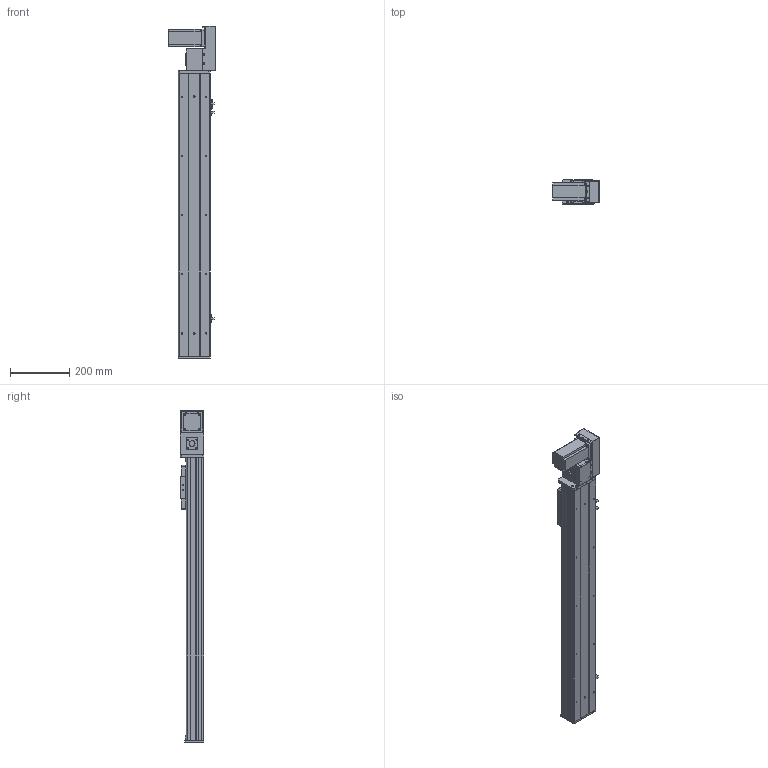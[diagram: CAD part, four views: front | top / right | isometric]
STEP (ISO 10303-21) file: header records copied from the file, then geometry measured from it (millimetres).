
FILE_DESCRIPTION (( 'STEP AP203' ), '1' );
FILE_NAME ('Y10CB-D90-S700-BR-P400W.STEP', '2020-02-16T01:41:44', ( '微软用户' ), ( '微软中国' ), 'SwSTEP 2.0', 'SolidWorks 2017', '' );
FILE_SCHEMA (( 'CONFIG_CONTROL_DESIGN' ));
Length unit declared in the file: millimetre
Products named in the file (18): Y100-135俋离換覜ん--; 0B-埴倛裔啣; Y10B--々湍喘謫眊--666; Y俋欶BR----; 0CB-雄赽釱---; Y10CB-D90-S700-BR-P400W; 10CB-詩湍-; 0Cb-俋欶---; Y10CB- 掛极耜裔啣-毀---; Y10B-々湍喘謫眊楊擘啣--; Y10C---詩湍揤啣; Y10B-耜蚾蟀諉啣----; 10CB9-掛极; 0B-萇儂楊擘啣; 10CB-耜裔; san松下电机400不带刹车----; Y135C-陔俋离換覜結え-; 0B-源倛裔啣
Assembly tree (21 placements, depth 2):
  Y10CB-D90-S700-BR-P400W
    0CB-雄赽釱---
    0Cb-俋欶---
    Y10B-々湍喘謫眊楊擘啣--
    Y10B-耜蚾蟀諉啣----
    0B-萇儂楊擘啣
    san松下电机400不带刹车----
    0B-源倛裔啣
    0B-埴倛裔啣
    Y俋欶BR----
    10CB-詩湍-
    Y10CB- 掛极耜裔啣-毀---  x2
    Y10C---詩湍揤啣  x2
    10CB9-掛极
    10CB-耜裔
    Y135C-陔俋离換覜結え-
    Y100-135俋离換覜ん--  x3
    Y10B--々湍喘謫眊--666
Bounding box: 157.5 x 80.5 x 1122.5 mm (x, y, z)
Volume: 2613423.4 mm3; surface area: 1148436.8 mm2
Topology: 21 solids, 21 shells, 966 faces, 2563 edges, 1682 vertices
Faces by surface type: plane 475, cylinder 467, cone 24
Entity records: 29904 total; most frequent: CARTESIAN_POINT 5173, DIRECTION 4858, ORIENTED_EDGE 4596, EDGE_CURVE 2298, AXIS2_PLACEMENT_3D 1737, VERTEX_POINT 1508, VECTOR 1384, LINE 1384
